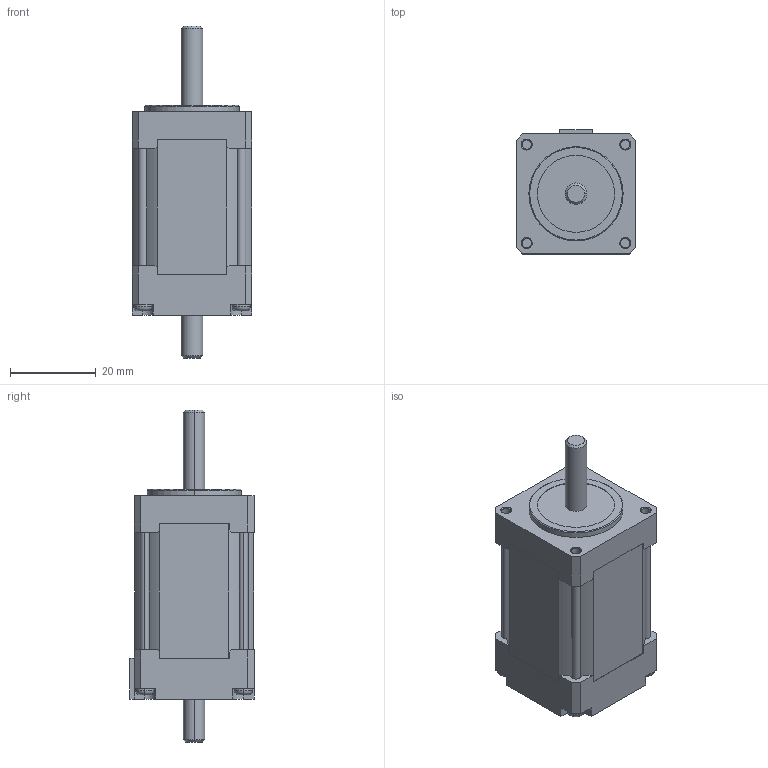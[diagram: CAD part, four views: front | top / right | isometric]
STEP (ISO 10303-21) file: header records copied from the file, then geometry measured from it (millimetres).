
FILE_DESCRIPTION (( 'STEP AP214' ), '1' );
FILE_NAME ('TS3641N12E3.STEP', '2011-09-15T08:51:25', ( '' ), ( '' ), 'SwSTEP 2.0', 'SolidWorks 2010', '' );
FILE_SCHEMA (( 'AUTOMOTIVE_DESIGN' ));
Length unit declared in the file: millimetre
Products named in the file (1): TS3641N12E3
Bounding box: 28 x 29 x 77.5 mm (x, y, z)
Volume: 36427.1 mm3; surface area: 8516.5 mm2
Topology: 1 solids, 1 shells, 237 faces, 656 edges, 428 vertices
Faces by surface type: plane 125, cylinder 88, cone 16, torus 8
Entity records: 8078 total; most frequent: CARTESIAN_POINT 1530, DIRECTION 1320, ORIENTED_EDGE 1312, EDGE_CURVE 656, AXIS2_PLACEMENT_3D 474, VERTEX_POINT 428, LINE 372, VECTOR 372
